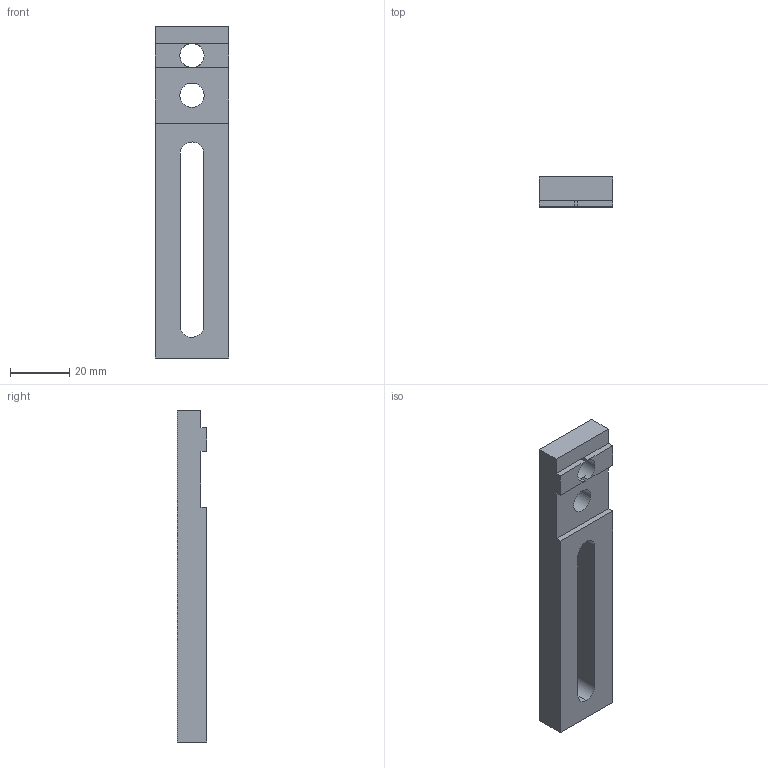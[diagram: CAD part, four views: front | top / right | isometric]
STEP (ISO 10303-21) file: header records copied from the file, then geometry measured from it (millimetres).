
FILE_DESCRIPTION(/* description */ ('Side guide bracket GM10 anti-rotation'),/* implementation_level */ '2;1');
FILE_NAME(/* name */ 'C:\Users\apromt\Desktop\tekeningen\stp\SG1200010001.stp',/* time_stamp */ '2021-11-11T09:17:35+01:00',/* author */ ('rens'),/* organization */ (''),/* preprocessor_version */ 'ST-DEVELOPER v18.1',/* originating_system */ 'Autodesk Inventor 2021',/* authorisation */ '');
FILE_SCHEMA (('AUTOMOTIVE_DESIGN { 1 0 10303 214 3 1 1 }'));
Length unit declared in the file: millimetre
Products named in the file (1): SG1200010001
Bounding box: 25 x 10 x 112.5 mm (x, y, z)
Volume: 20711.6 mm3; surface area: 8989.7 mm2
Topology: 1 solids, 1 shells, 23 faces, 66 edges, 44 vertices
Faces by surface type: plane 17, cylinder 6
Full cylindrical faces by diameter (mm): 8.2 x2
Entity records: 809 total; most frequent: CARTESIAN_POINT 134, ORIENTED_EDGE 132, DIRECTION 130, EDGE_CURVE 66, LINE 50, VECTOR 50, VERTEX_POINT 44, AXIS2_PLACEMENT_3D 40
